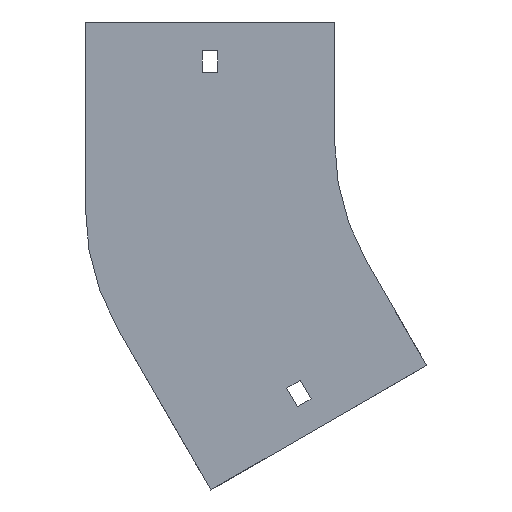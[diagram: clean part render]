
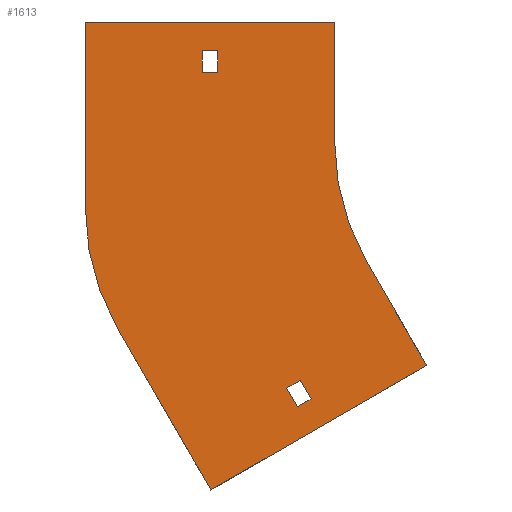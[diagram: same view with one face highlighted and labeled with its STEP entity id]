
A CAD part, front view. The second image highlights one B-rep face of the part: STEP entity #1613.
In plain terms, the highlighted planar face has unit normal (0, -1, 0).
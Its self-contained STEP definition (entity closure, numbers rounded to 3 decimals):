
#4 = AXIS2_PLACEMENT_3D ( 'NONE', #1175, #1654, #415 ) ;
#17 = EDGE_CURVE ( 'NONE', #634, #996, #249, .T. ) ;
#18 = EDGE_CURVE ( 'NONE', #240, #1836, #1460, .T. ) ;
#47 = AXIS2_PLACEMENT_3D ( 'NONE', #1259, #1850, #338 ) ;
#56 = LINE ( 'NONE', #1863, #1535 ) ;
#59 = ORIENTED_EDGE ( 'NONE', *, *, #744, .F. ) ;
#77 = VECTOR ( 'NONE', #640, 1000. ) ;
#84 = ORIENTED_EDGE ( 'NONE', *, *, #613, .T. ) ;
#96 = VERTEX_POINT ( 'NONE', #906 ) ;
#104 = EDGE_CURVE ( 'NONE', #1326, #1329, #1660, .T. ) ;
#129 = VECTOR ( 'NONE', #1283, 1000. ) ;
#139 = ORIENTED_EDGE ( 'NONE', *, *, #18, .T. ) ;
#146 = DIRECTION ( 'NONE',  ( 0.866, 0., 0.5 ) ) ;
#164 = EDGE_CURVE ( 'NONE', #298, #177, #1133, .T. ) ;
#177 = VERTEX_POINT ( 'NONE', #385 ) ;
#209 = EDGE_CURVE ( 'NONE', #1496, #1589, #374, .T. ) ;
#218 = LINE ( 'NONE', #1883, #1124 ) ;
#223 = VERTEX_POINT ( 'NONE', #989 ) ;
#227 = DIRECTION ( 'NONE',  ( -0.5, 0., 0.866 ) ) ;
#240 = VERTEX_POINT ( 'NONE', #1179 ) ;
#249 = LINE ( 'NONE', #1753, #1575 ) ;
#259 = CARTESIAN_POINT ( 'NONE',  ( -155.25, 0., 38. ) ) ;
#298 = VERTEX_POINT ( 'NONE', #665 ) ;
#335 = VECTOR ( 'NONE', #786, 1000. ) ;
#338 = DIRECTION ( 'NONE',  ( 0., 0., -1. ) ) ;
#344 = CARTESIAN_POINT ( 'NONE',  ( -100., 0., 0. ) ) ;
#357 = LINE ( 'NONE', #1715, #383 ) ;
#362 = DIRECTION ( 'NONE',  ( 1., 0., 0. ) ) ;
#364 = DIRECTION ( 'NONE',  ( 0., 0., -1. ) ) ;
#372 = CARTESIAN_POINT ( 'NONE',  ( -86.603, 0., -50. ) ) ;
#374 = LINE ( 'NONE', #1458, #872 ) ;
#383 = VECTOR ( 'NONE', #1879, 1000. ) ;
#385 = CARTESIAN_POINT ( 'NONE',  ( -115.45, 0., -110.534 ) ) ;
#386 = CARTESIAN_POINT ( 'NONE',  ( -155.25, 0., 29. ) ) ;
#389 = ORIENTED_EDGE ( 'NONE', *, *, #623, .F. ) ;
#415 = DIRECTION ( 'NONE',  ( 0., 0., 1. ) ) ;
#417 = ORIENTED_EDGE ( 'NONE', *, *, #472, .F. ) ;
#466 = FACE_BOUND ( 'NONE', #1905, .T. ) ;
#472 = EDGE_CURVE ( 'NONE', #223, #539, #1273, .T. ) ;
#522 = DIRECTION ( 'NONE',  ( 0.5, 0., -0.866 ) ) ;
#539 = VERTEX_POINT ( 'NONE', #344 ) ;
#563 = ORIENTED_EDGE ( 'NONE', *, *, #1362, .F. ) ;
#564 = EDGE_CURVE ( 'NONE', #1589, #240, #951, .T. ) ;
#584 = CARTESIAN_POINT ( 'NONE',  ( -115.45, 0., -110.534 ) ) ;
#613 = EDGE_CURVE ( 'NONE', #1836, #1496, #1576, .T. ) ;
#621 = CARTESIAN_POINT ( 'NONE',  ( -119.95, 0., -102.74 ) ) ;
#623 = EDGE_CURVE ( 'NONE', #539, #634, #1832, .T. ) ;
#634 = VERTEX_POINT ( 'NONE', #372 ) ;
#640 = DIRECTION ( 'NONE',  ( -0.866, 0., -0.5 ) ) ;
#665 = CARTESIAN_POINT ( 'NONE',  ( -119.95, 0., -102.74 ) ) ;
#677 = EDGE_CURVE ( 'NONE', #1329, #223, #1020, .T. ) ;
#680 = CARTESIAN_POINT ( 'NONE',  ( -151.669, 0., -145.301 ) ) ;
#702 = DIRECTION ( 'NONE',  ( 0., 0., 1. ) ) ;
#704 = ORIENTED_EDGE ( 'NONE', *, *, #17, .F. ) ;
#728 = DIRECTION ( 'NONE',  ( 1., 0., 0. ) ) ;
#744 = EDGE_CURVE ( 'NONE', #1502, #1326, #1587, .T. ) ;
#786 = DIRECTION ( 'NONE',  ( 0., 0., -1. ) ) ;
#828 = CARTESIAN_POINT ( 'NONE',  ( -204., 0., -27.867 ) ) ;
#854 = DIRECTION ( 'NONE',  ( 0.5, 0., -0.866 ) ) ;
#872 = VECTOR ( 'NONE', #364, 1000. ) ;
#906 = CARTESIAN_POINT ( 'NONE',  ( -109.821, 0., -107.284 ) ) ;
#919 = DIRECTION ( 'NONE',  ( -0.5, 0., 0.866 ) ) ;
#951 = LINE ( 'NONE', #1722, #129 ) ;
#966 = EDGE_LOOP ( 'NONE', ( #139, #84, #1464, #1092 ) ) ;
#989 = CARTESIAN_POINT ( 'NONE',  ( -100., 0., 50. ) ) ;
#996 = VERTEX_POINT ( 'NONE', #1745 ) ;
#1001 = CARTESIAN_POINT ( 'NONE',  ( -119.95, 0., -102.74 ) ) ;
#1020 = LINE ( 'NONE', #1479, #1218 ) ;
#1039 = ORIENTED_EDGE ( 'NONE', *, *, #164, .F. ) ;
#1090 = PLANE ( 'NONE',  #47 ) ;
#1092 = ORIENTED_EDGE ( 'NONE', *, *, #564, .T. ) ;
#1100 = CARTESIAN_POINT ( 'NONE',  ( -148.75, 0., 38. ) ) ;
#1108 = CARTESIAN_POINT ( 'NONE',  ( -148.75, 0., 29. ) ) ;
#1124 = VECTOR ( 'NONE', #227, 1000. ) ;
#1133 = LINE ( 'NONE', #1001, #1568 ) ;
#1142 = DIRECTION ( 'NONE',  ( 0., 0., -1. ) ) ;
#1162 = ORIENTED_EDGE ( 'NONE', *, *, #1203, .F. ) ;
#1175 = CARTESIAN_POINT ( 'NONE',  ( -104., 0., -27.867 ) ) ;
#1179 = CARTESIAN_POINT ( 'NONE',  ( -155.25, 0., 29. ) ) ;
#1203 = EDGE_CURVE ( 'NONE', #1760, #1502, #56, .T. ) ;
#1217 = DIRECTION ( 'NONE',  ( 0., 0., 1. ) ) ;
#1218 = VECTOR ( 'NONE', #728, 1000. ) ;
#1241 = FACE_BOUND ( 'NONE', #966, .T. ) ;
#1253 = EDGE_LOOP ( 'NONE', ( #1383, #1495, #59, #1162, #1816, #704, #389, #417 ) ) ;
#1259 = CARTESIAN_POINT ( 'NONE',  ( 0., 0., 0. ) ) ;
#1273 = LINE ( 'NONE', #1408, #335 ) ;
#1275 = AXIS2_PLACEMENT_3D ( 'NONE', #1434, #1864, #1142 ) ;
#1280 = VERTEX_POINT ( 'NONE', #1737 ) ;
#1283 = DIRECTION ( 'NONE',  ( -1., 0., 0. ) ) ;
#1286 = VECTOR ( 'NONE', #146, 1000. ) ;
#1326 = VERTEX_POINT ( 'NONE', #828 ) ;
#1329 = VERTEX_POINT ( 'NONE', #1720 ) ;
#1362 = EDGE_CURVE ( 'NONE', #96, #1280, #218, .T. ) ;
#1383 = ORIENTED_EDGE ( 'NONE', *, *, #677, .F. ) ;
#1403 = VECTOR ( 'NONE', #1217, 1000. ) ;
#1408 = CARTESIAN_POINT ( 'NONE',  ( -100., 0., 50. ) ) ;
#1434 = CARTESIAN_POINT ( 'NONE',  ( 0., 0., 0. ) ) ;
#1458 = CARTESIAN_POINT ( 'NONE',  ( -148.75, 0., 29. ) ) ;
#1460 = LINE ( 'NONE', #386, #1702 ) ;
#1464 = ORIENTED_EDGE ( 'NONE', *, *, #209, .T. ) ;
#1479 = CARTESIAN_POINT ( 'NONE',  ( -204., 0., 50. ) ) ;
#1495 = ORIENTED_EDGE ( 'NONE', *, *, #104, .F. ) ;
#1496 = VERTEX_POINT ( 'NONE', #1100 ) ;
#1502 = VERTEX_POINT ( 'NONE', #1524 ) ;
#1524 = CARTESIAN_POINT ( 'NONE',  ( -190.603, 0., -77.867 ) ) ;
#1535 = VECTOR ( 'NONE', #919, 1000. ) ;
#1568 = VECTOR ( 'NONE', #854, 1000. ) ;
#1575 = VECTOR ( 'NONE', #522, 1000. ) ;
#1576 = LINE ( 'NONE', #1885, #1861 ) ;
#1587 = CIRCLE ( 'NONE', #4, 100. ) ;
#1589 = VERTEX_POINT ( 'NONE', #1108 ) ;
#1609 = EDGE_CURVE ( 'NONE', #1280, #298, #1667, .T. ) ;
#1612 = ORIENTED_EDGE ( 'NONE', *, *, #1837, .F. ) ;
#1613 = ADVANCED_FACE ( 'NONE', ( #1241, #1833, #466 ), #1090, .T. ) ;
#1654 = DIRECTION ( 'NONE',  ( 0., 1., 0. ) ) ;
#1660 = LINE ( 'NONE', #1688, #1403 ) ;
#1667 = LINE ( 'NONE', #621, #77 ) ;
#1688 = CARTESIAN_POINT ( 'NONE',  ( -204., 0., -27.867 ) ) ;
#1691 = ORIENTED_EDGE ( 'NONE', *, *, #1609, .F. ) ;
#1702 = VECTOR ( 'NONE', #702, 1000. ) ;
#1715 = CARTESIAN_POINT ( 'NONE',  ( -61.603, 0., -93.301 ) ) ;
#1720 = CARTESIAN_POINT ( 'NONE',  ( -204., 0., 50. ) ) ;
#1722 = CARTESIAN_POINT ( 'NONE',  ( -155.25, 0., 29. ) ) ;
#1737 = CARTESIAN_POINT ( 'NONE',  ( -114.321, 0., -99.49 ) ) ;
#1741 = EDGE_CURVE ( 'NONE', #996, #1760, #357, .T. ) ;
#1745 = CARTESIAN_POINT ( 'NONE',  ( -61.603, 0., -93.301 ) ) ;
#1753 = CARTESIAN_POINT ( 'NONE',  ( -86.603, 0., -50. ) ) ;
#1760 = VERTEX_POINT ( 'NONE', #680 ) ;
#1763 = LINE ( 'NONE', #584, #1286 ) ;
#1816 = ORIENTED_EDGE ( 'NONE', *, *, #1741, .F. ) ;
#1832 = CIRCLE ( 'NONE', #1275, 100. ) ;
#1833 = FACE_OUTER_BOUND ( 'NONE', #1253, .T. ) ;
#1836 = VERTEX_POINT ( 'NONE', #259 ) ;
#1837 = EDGE_CURVE ( 'NONE', #177, #96, #1763, .T. ) ;
#1850 = DIRECTION ( 'NONE',  ( 0., -1., 0. ) ) ;
#1861 = VECTOR ( 'NONE', #362, 1000. ) ;
#1863 = CARTESIAN_POINT ( 'NONE',  ( -151.669, 0., -145.301 ) ) ;
#1864 = DIRECTION ( 'NONE',  ( 0., -1., 0. ) ) ;
#1879 = DIRECTION ( 'NONE',  ( -0.866, 0., -0.5 ) ) ;
#1883 = CARTESIAN_POINT ( 'NONE',  ( -114.321, 0., -99.49 ) ) ;
#1885 = CARTESIAN_POINT ( 'NONE',  ( -155.25, 0., 38. ) ) ;
#1905 = EDGE_LOOP ( 'NONE', ( #1612, #1039, #1691, #563 ) ) ;
